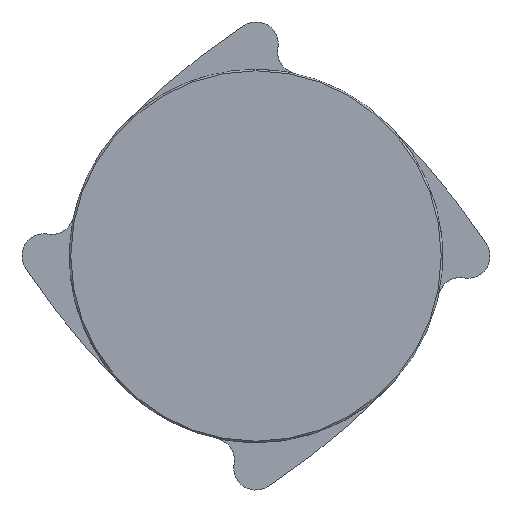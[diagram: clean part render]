
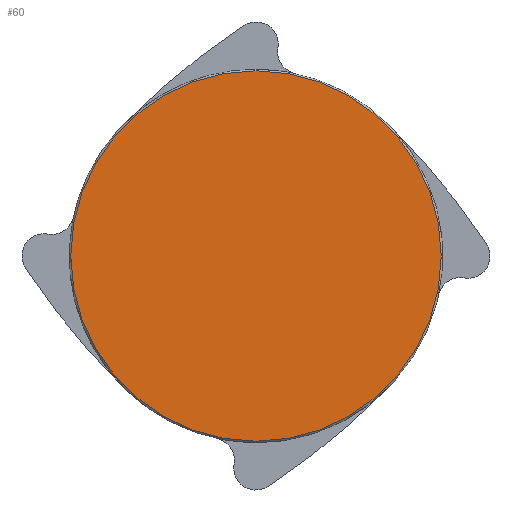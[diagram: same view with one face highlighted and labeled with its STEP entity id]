
A CAD part, front view. The second image highlights one B-rep face of the part: STEP entity #60.
In plain terms, the highlighted planar face has unit normal (0, -1, 0).
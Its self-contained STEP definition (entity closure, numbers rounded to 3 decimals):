
#60=ADVANCED_FACE('',(#269),#268,.T.);
#268=PLANE('',#455);
#269=FACE_OUTER_BOUND('',#456,.T.);
#452=CARTESIAN_POINT('',(-159.883,-6.,39.25));
#453=DIRECTION('',(0.,-1.,0.));
#454=DIRECTION('',(0.,0.,-1.));
#455=AXIS2_PLACEMENT_3D('',#452,#453,#454);
#456=EDGE_LOOP('',(#600,#601));
#600=ORIENTED_EDGE('',*,*,#700,.T.);
#601=ORIENTED_EDGE('',*,*,#701,.T.);
#700=EDGE_CURVE('',#1038,#1039,#1040,.T.);
#701=EDGE_CURVE('',#1039,#1038,#1046,.T.);
#1038=VERTEX_POINT('',#1366);
#1039=VERTEX_POINT('',#1367);
#1040=CIRCLE('',#1371,62.5);
#1046=CIRCLE('',#1375,62.5);
#1366=CARTESIAN_POINT('',(-41.629,-6.,-158.25));
#1367=CARTESIAN_POINT('',(-41.629,-6.,-33.25));
#1368=CARTESIAN_POINT('',(-41.629,-6.,-95.75));
#1369=DIRECTION('',(0.,-1.,0.));
#1370=DIRECTION('',(0.,0.,-1.));
#1371=AXIS2_PLACEMENT_3D('',#1368,#1369,#1370);
#1372=CARTESIAN_POINT('',(-41.629,-6.,-95.75));
#1373=DIRECTION('',(0.,-1.,0.));
#1374=DIRECTION('',(0.,0.,-1.));
#1375=AXIS2_PLACEMENT_3D('',#1372,#1373,#1374);
